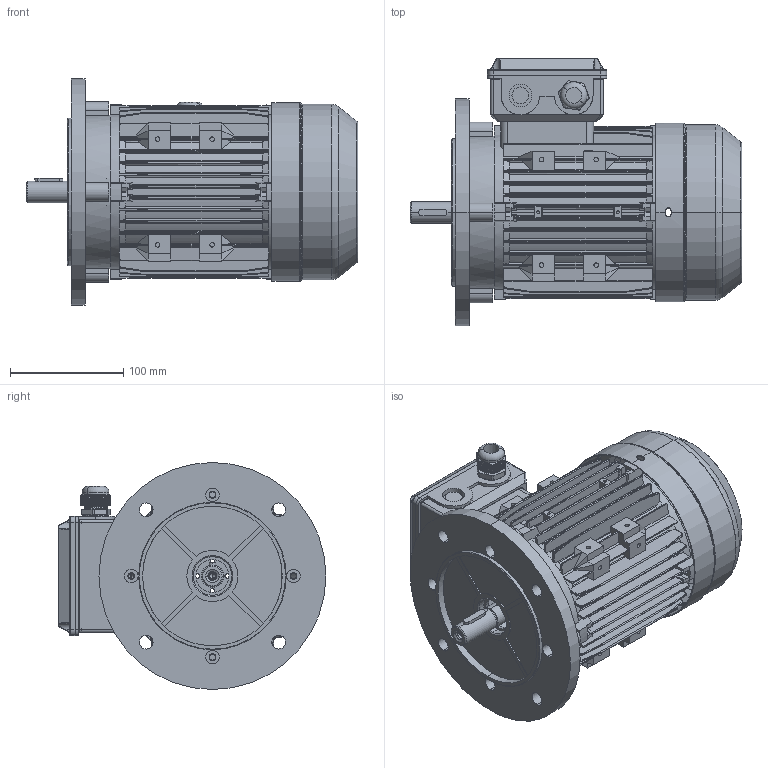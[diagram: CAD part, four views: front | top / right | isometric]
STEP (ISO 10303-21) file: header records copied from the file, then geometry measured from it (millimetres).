
FILE_DESCRIPTION (( 'STEP AP203' ), '1' );
FILE_NAME ('ME8024 assembly B5 .STEP', '2013-01-11T11:17:22', ( '' ), ( '' ), 'SwSTEP 2.0', 'SolidWorks 2010', '' );
FILE_SCHEMA (( 'CONFIG_CONTROL_DESIGN' ));
Length unit declared in the file: millimetre
Products named in the file (8): MS100諉盄碟釱; ME80傷裔B5; MS100諉盄碟裔; ME8024 assembly B5 ; ME80儂褲_樓馱; ME80瑞欶_076; M80-Shaft drive end_S-2P; M20 cable gland
Assembly tree (7 placements, depth 2):
  ME8024 assembly B5 
    M20 cable gland
    ME80儂褲_樓馱
    MS100諉盄碟裔
    ME80瑞欶_076
    ME80傷裔B5
    MS100諉盄碟釱
    M80-Shaft drive end_S-2P
Bounding box: 292.49 x 236 x 200 mm (x, y, z)
Volume: 847002 mm3; surface area: 542878.2 mm2
Topology: 7 solids, 7 shells, 2669 faces, 7253 edges, 4647 vertices
Faces by surface type: plane 1203, cylinder 882, bspline 384, cone 134, torus 58, sphere 8
Entity records: 127697 total; most frequent: CARTESIAN_POINT 62844, ORIENTED_EDGE 14410, DIRECTION 11758, EDGE_CURVE 7205, VERTEX_POINT 4639, AXIS2_PLACEMENT_3D 3989, VECTOR 3780, LINE 3780
